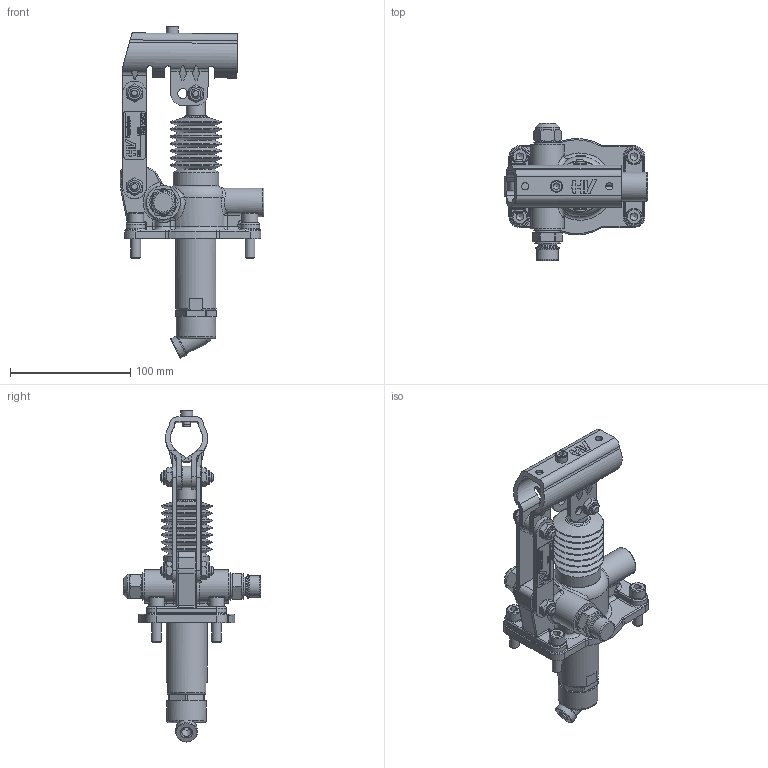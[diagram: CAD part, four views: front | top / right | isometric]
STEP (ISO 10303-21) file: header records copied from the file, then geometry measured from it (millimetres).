
FILE_DESCRIPTION((''),'2;1');
FILE_NAME('G:\HV_HYDRAULIC\AZIENDA_HV_HYDRAULIC\ARCHIVIO_DISEGNI\5_PRODOTTI_FINITI\1_POMPE_MANUALI\6051_PM_25\6051.0119_PM_25_byB-e-s_(HV)\6051.0119.stp','2024-02-28T11:59:12',('christian.scardovi'),(''),'Autodesk Inventor 2013','Autodesk Inventor 2013','');
FILE_SCHEMA(('AUTOMOTIVE_DESIGN { 1 0 10303 214 1 1 1 1 }'));
Length unit declared in the file: millimetre
Products named in the file (1): 6051.0119
Bounding box: 119.5 x 114 x 276.08 mm (x, y, z)
Surface area: 116358.8 mm2
Topology: 2 solids, 3 shells, 1392 faces, 3524 edges, 2226 vertices
Faces by surface type: plane 690, cylinder 274, bspline 190, cone 133, torus 89, sphere 16
Full cylindrical faces by diameter (mm): 5 x4, 6 x4, 6.5 x1, 8 x15, 9 x2, 9.2 x1, 10 x1, 10.376 x1, 11.05 x6, 12 x5, 13 x4, 13.2 x1, 14 x4, 14.95 x3, 16 x3, 16.6 x3, 17 x1, 17.6 x1, 18 x5, 20 x3, 21 x2, 22 x1, 23 x3, 24 x1, 25 x2, 26.5 x1, 28 x1, 29 x1, 33 x1, 34 x1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
Entity records: 43799 total; most frequent: CARTESIAN_POINT 11356, ORIENTED_EDGE 6500, DIRECTION 5889, EDGE_CURVE 3250, VERTEX_POINT 2157, AXIS2_PLACEMENT_3D 2050, VECTOR 1789, LINE 1789
